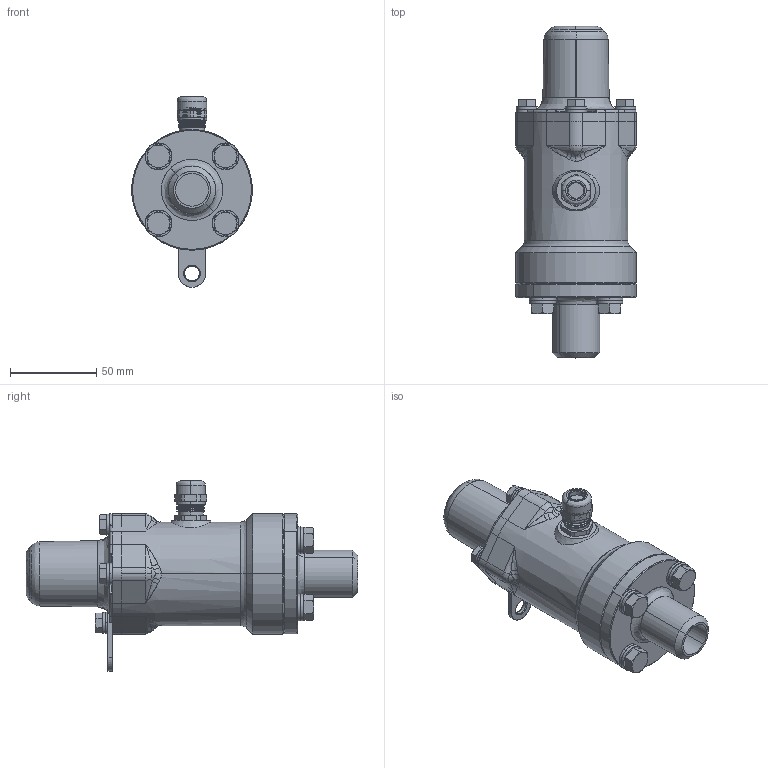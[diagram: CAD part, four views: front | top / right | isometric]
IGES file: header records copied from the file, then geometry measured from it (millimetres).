
Start section: SolidWorks IGES file using analytic representation for surfaces
Global section: file name: V:\WORK\08133\HP 寸法図\EK\EK3200\test_G17000B-000_defeature.IGS,15; native system: HSolidWorks 2018; preprocessor: SolidWorks 2018; author: n-udagawa; date: 230210.111448; units: millimetre
Bounding box: 70 x 192.5 x 110.5 mm (x, y, z)
Surface area: 46323.1 mm2 (no closed solid volume)
Topology: 0 solids, 0 shells, 722 faces, 11022 edges, 12476 vertices
Faces by surface type: revolution 452, bspline 270
